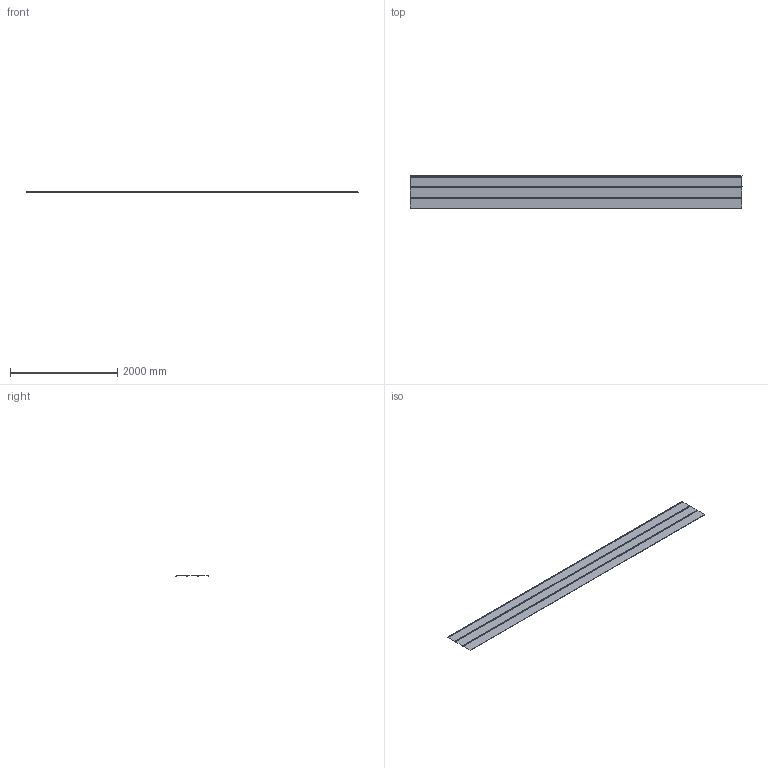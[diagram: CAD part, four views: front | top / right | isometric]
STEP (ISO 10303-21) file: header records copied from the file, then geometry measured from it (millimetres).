
FILE_DESCRIPTION(/* description */ (''),/* implementation_level */ '2;1');
FILE_NAME(/* name */ 'PREFA_~1',/* time_stamp */ '2020-07-21T14:53:54+02:00',/* author */ (''),/* organization */ (''),/* preprocessor_version */ 'ST-DEVELOPER v15',/* originating_system */ '',/* authorisation */ '');
FILE_SCHEMA (('AUTOMOTIVE_DESIGN'));
Length unit declared in the file: millimetre
Products named in the file (1): Document
Bounding box: 6200 x 608.6 x 6.5 mm (x, y, z)
Surface area: 4075787.7 mm2 (no closed solid volume)
Topology: 0 solids, 3 shells, 24 faces, 75 edges, 54 vertices
Faces by surface type: bspline 24
Entity records: 726 total; most frequent: CARTESIAN_POINT 350, ORIENTED_EDGE 96, EDGE_CURVE 75, VERTEX_POINT 54, B_SPLINE_CURVE_WITH_KNOTS 36, ADVANCED_FACE 24, FACE_OUTER_BOUND 24, EDGE_LOOP 24
